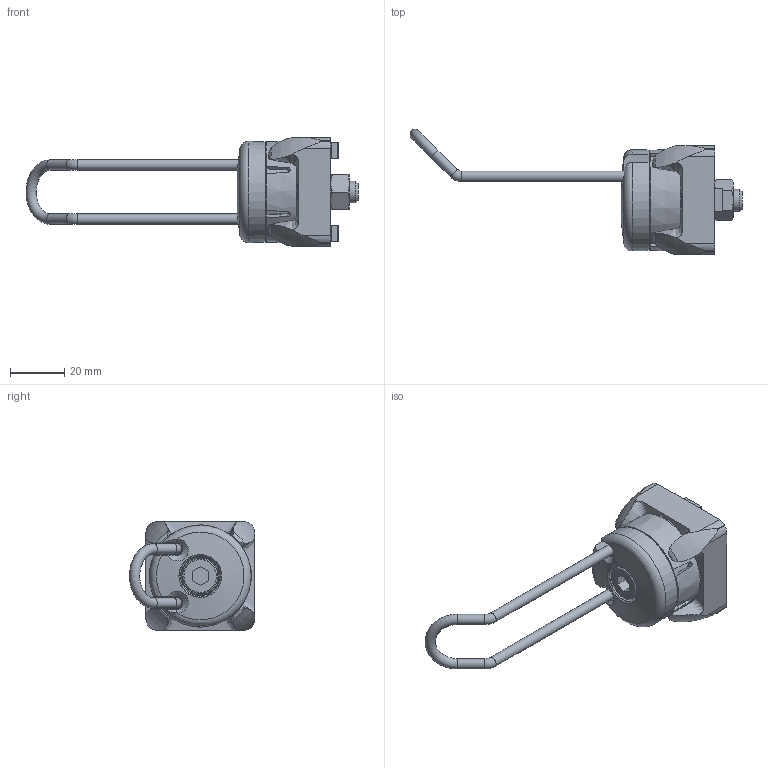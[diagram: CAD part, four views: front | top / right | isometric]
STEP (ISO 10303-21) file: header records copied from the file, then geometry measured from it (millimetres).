
FILE_DESCRIPTION(/* description */ ('STEP AP214'),/* implementation_level */ '2;1');
FILE_NAME(/* name */ '6TH240NA8020S01',/* time_stamp */ '2024-09-05T09:11:42+02:00',/* author */ ('License CC BY-ND 4.0'),/* organization */ ('CADENAS'),/* preprocessor_version */ 'ST-DEVELOPER v19.3',/* originating_system */ 'PARTsolutions',/* authorisation */ ' ');
FILE_SCHEMA (('AUTOMOTIVE_DESIGN {1 0 10303 214 3 1 1}'));
Length unit declared in the file: millimetre
Products named in the file (7): 6TH240NA8020S01; 6TH240NA8020S01_1; 6TH240NA8020S01_2; 6TH240NA8020S01_3; 6TH240NA8020S01_4; 6TH240NA8020S01_5; 6TH240NA8020S01_6
Assembly tree (7 placements, depth 2):
  6TH240NA8020S01
    6TH240NA8020S01_1
    6TH240NA8020S01_2  x2
    6TH240NA8020S01_3
    6TH240NA8020S01_4
    6TH240NA8020S01_5
    6TH240NA8020S01_6
Bounding box: 122.31 x 46.11 x 40 mm (x, y, z)
Volume: 43500.8 mm3; surface area: 22615.2 mm2
Topology: 7 solids, 7 shells, 391 faces, 1050 edges, 688 vertices
Faces by surface type: plane 163, cylinder 149, torus 44, cone 30, bspline 4, sphere 1
Full cylindrical faces by diameter (mm): 3.8 x8, 6.647 x1, 8 x1, 13 x1
Entity records: 11528 total; most frequent: CARTESIAN_POINT 2632, DIRECTION 1819, ORIENTED_EDGE 1810, EDGE_CURVE 905, AXIS2_PLACEMENT_3D 700, VERTEX_POINT 615, LINE 419, VECTOR 419
